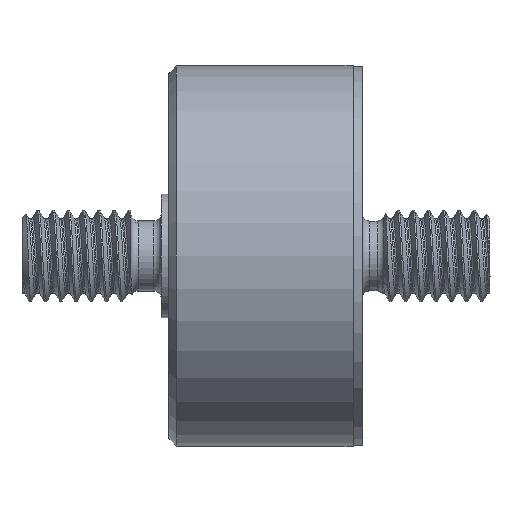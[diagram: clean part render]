
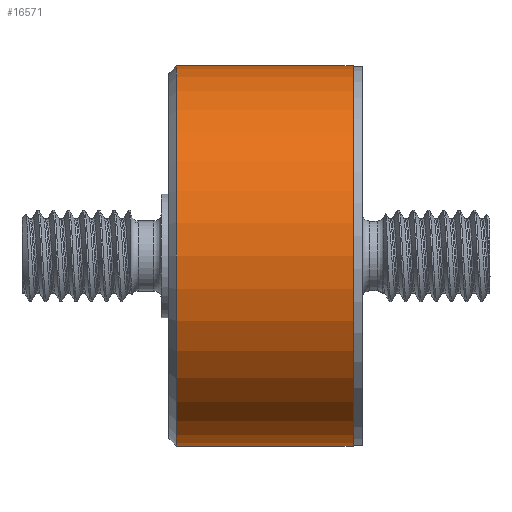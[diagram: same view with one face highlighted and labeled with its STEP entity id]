
A CAD part, left-side view. The second image highlights one B-rep face of the part: STEP entity #16571.
In plain terms, the highlighted cylindrical face has radius 12.5 mm (diameter 25 mm), a partial arc.
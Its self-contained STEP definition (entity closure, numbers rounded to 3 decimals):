
#272 = AXIS2_PLACEMENT_3D ( 'NONE', #9902, #9903, #9904 ) ;
#275 = CIRCLE ( 'NONE', #288, 12.5 ) ;
#282 = CIRCLE ( 'NONE', #272, 12.5 ) ;
#288 = AXIS2_PLACEMENT_3D ( 'NONE', #9897, #9898, #9899 ) ;
#8713 = ORIENTED_EDGE ( 'NONE', *, *, #16347, .T. ) ;
#8745 = ORIENTED_EDGE ( 'NONE', *, *, #14444, .F. ) ;
#8783 = EDGE_LOOP ( 'NONE', ( #8745, #8713, #16292, #16297 ) ) ;
#9897 = CARTESIAN_POINT ( 'NONE',  ( 0., 11.6, 0. ) ) ;
#9898 = DIRECTION ( 'NONE',  ( 0., -1., 0. ) ) ;
#9899 = DIRECTION ( 'NONE',  ( 0., 0., 1. ) ) ;
#9902 = CARTESIAN_POINT ( 'NONE',  ( 0., 0., 0. ) ) ;
#9903 = DIRECTION ( 'NONE',  ( 0., -1., 0. ) ) ;
#9904 = DIRECTION ( 'NONE',  ( 0., 0., -1. ) ) ;
#13613 = AXIS2_PLACEMENT_3D ( 'NONE', #30148, #30145, #30150 ) ;
#14444 = EDGE_CURVE ( 'NONE', #16039, #16067, #27750, .T. ) ;
#14446 = EDGE_CURVE ( 'NONE', #16040, #16062, #27778, .T. ) ;
#16039 = VERTEX_POINT ( 'NONE', #28297 ) ;
#16040 = VERTEX_POINT ( 'NONE', #28298 ) ;
#16062 = VERTEX_POINT ( 'NONE', #28318 ) ;
#16067 = VERTEX_POINT ( 'NONE', #28323 ) ;
#16292 = ORIENTED_EDGE ( 'NONE', *, *, #14446, .T. ) ;
#16297 = ORIENTED_EDGE ( 'NONE', *, *, #16348, .F. ) ;
#16347 = EDGE_CURVE ( 'NONE', #16039, #16040, #275, .T. ) ;
#16348 = EDGE_CURVE ( 'NONE', #16067, #16062, #282, .T. ) ;
#16571 = ADVANCED_FACE ( 'NONE', ( #30098 ), #30147, .T. ) ;
#25078 = VECTOR ( 'NONE', #27777, 1000. ) ;
#25080 = VECTOR ( 'NONE', #27783, 1000. ) ;
#27750 = LINE ( 'NONE', #27775, #25078 ) ;
#27775 = CARTESIAN_POINT ( 'NONE',  ( 0., 0., 12.5 ) ) ;
#27776 = CARTESIAN_POINT ( 'NONE',  ( 0., 0., -12.5 ) ) ;
#27777 = DIRECTION ( 'NONE',  ( 0., -1., 0. ) ) ;
#27778 = LINE ( 'NONE', #27776, #25080 ) ;
#27783 = DIRECTION ( 'NONE',  ( 0., -1., 0. ) ) ;
#28297 = CARTESIAN_POINT ( 'NONE',  ( 0., 11.6, 12.5 ) ) ;
#28298 = CARTESIAN_POINT ( 'NONE',  ( 0., 11.6, -12.5 ) ) ;
#28318 = CARTESIAN_POINT ( 'NONE',  ( 0., 0., -12.5 ) ) ;
#28323 = CARTESIAN_POINT ( 'NONE',  ( 0., 0., 12.5 ) ) ;
#30098 = FACE_OUTER_BOUND ( 'NONE', #8783, .T. ) ;
#30145 = DIRECTION ( 'NONE',  ( 0., -1., 0. ) ) ;
#30147 = CYLINDRICAL_SURFACE ( 'NONE', #13613, 12.5 ) ;
#30148 = CARTESIAN_POINT ( 'NONE',  ( 0., 0., 0. ) ) ;
#30150 = DIRECTION ( 'NONE',  ( 0., 0., -1. ) ) ;
